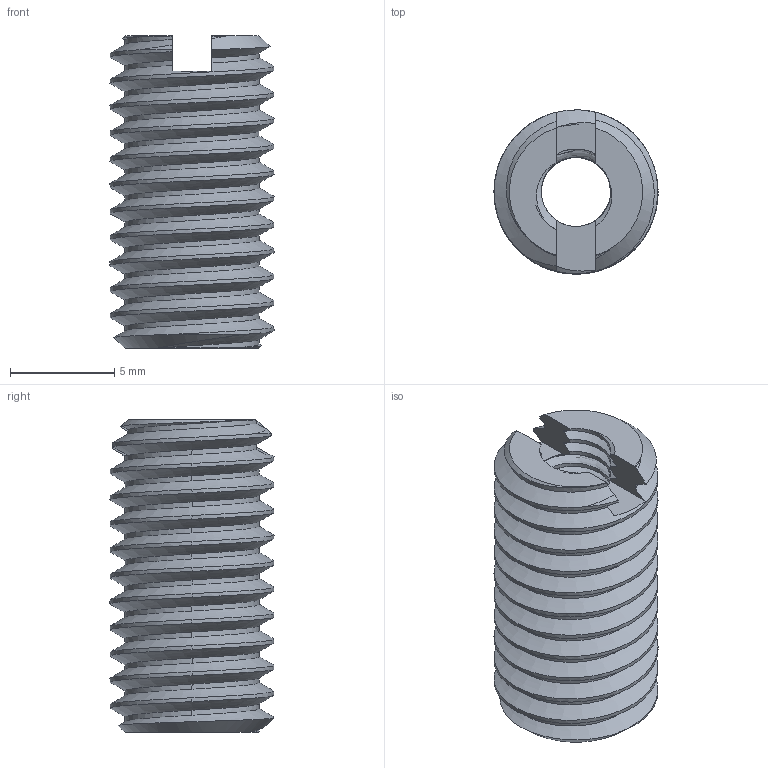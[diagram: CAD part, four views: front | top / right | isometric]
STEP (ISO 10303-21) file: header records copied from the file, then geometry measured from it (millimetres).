
FILE_DESCRIPTION(/* description */ (''),/* implementation_level */ '2;1');
FILE_NAME(/* name */ 'Thread Reducer - M8 to M4.step',/* time_stamp */ '2025-09-22T22:57:01+03:00',/* author */ (''),/* organization */ (''),/* preprocessor_version */ 'ST-DEVELOPER v20.1',/* originating_system */ 'Autodesk Translation Framework v14.10.0.0',/* authorisation */ '');
FILE_SCHEMA (('AUTOMOTIVE_DESIGN { 1 0 10303 214 3 1 1 }'));
Length unit declared in the file: millimetre
Products named in the file (1): Configuration 1
Bounding box: 7.88 x 7.88 x 15 mm (x, y, z)
Volume: 427.7 mm3; surface area: 872 mm2
Topology: 1 solids, 1 shells, 109 faces, 324 edges, 216 vertices
Faces by surface type: cylinder 77, bspline 19, plane 9, cone 4
Full cylindrical faces by diameter (mm): 3.332 x7, 4.109 x8, 6.446 x6, 7.866 x4
Entity records: 8428 total; most frequent: CARTESIAN_POINT 5926, ORIENTED_EDGE 648, EDGE_CURVE 324, DIRECTION 314, VERTEX_POINT 216, B_SPLINE_CURVE_WITH_KNOTS 202, EDGE_LOOP 110, FACE_OUTER_BOUND 109
